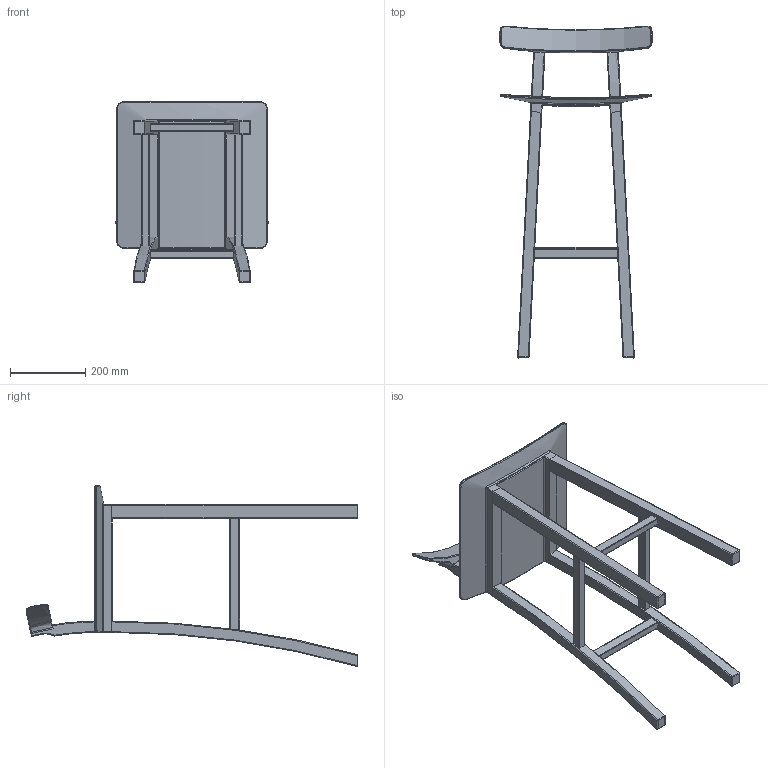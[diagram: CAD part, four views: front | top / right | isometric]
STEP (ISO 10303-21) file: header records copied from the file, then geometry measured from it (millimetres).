
FILE_DESCRIPTION (( 'STEP AP203' ), '1' );
FILE_NAME ('NERVOSA BAR STOOL.STEP', '2023-03-21T13:55:44', ( '' ), ( '' ), 'SwSTEP 2.0', 'SolidWorks 2023', '' );
FILE_SCHEMA (( 'CONFIG_CONTROL_DESIGN' ));
Length unit declared in the file: millimetre
Products named in the file (2): Group2^NERVOSA BAR STOOL; NERVOSA BAR STOOL
Assembly tree (1 placements, depth 2):
  NERVOSA BAR STOOL
    Group2^NERVOSA BAR STOOL
Bounding box: 403.74 x 881.57 x 480.27 mm (x, y, z)
Volume: 6693577.8 mm3; surface area: 898858.2 mm2
Topology: 8 solids, 8 shells, 379 faces, 961 edges, 581 vertices
Faces by surface type: cylinder 124, plane 114, bspline 79, torus 32, sphere 30
Entity records: 17253 total; most frequent: CARTESIAN_POINT 8907, ORIENTED_EDGE 1830, DIRECTION 1593, EDGE_CURVE 915, AXIS2_PLACEMENT_3D 621, VERTEX_POINT 557, EDGE_LOOP 376, ADVANCED_FACE 375
